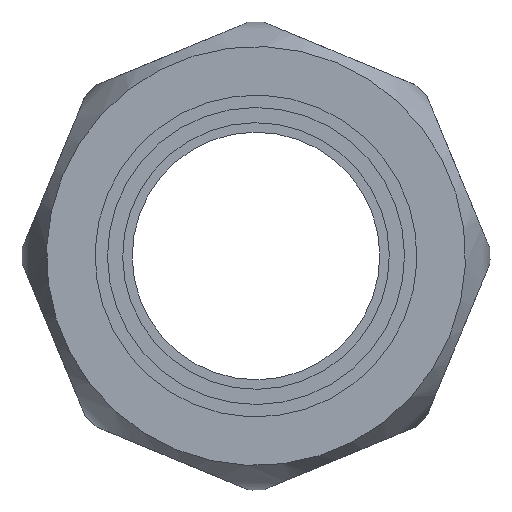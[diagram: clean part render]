
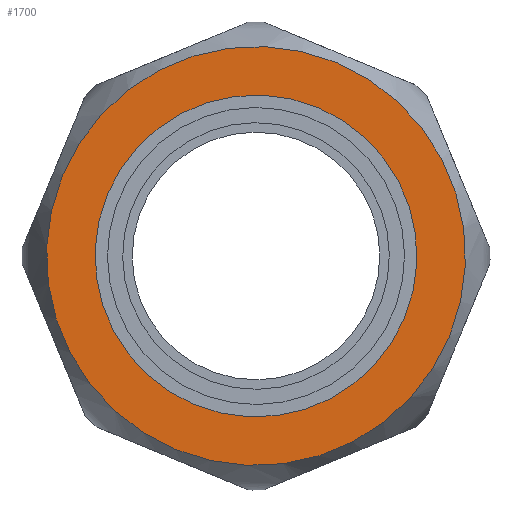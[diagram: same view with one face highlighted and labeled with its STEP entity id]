
A CAD part, left-side view. The second image highlights one B-rep face of the part: STEP entity #1700.
In plain terms, the highlighted planar face has unit normal (-1, 0, 0) as drawn and (1, 0, 0) by its records, which use the part's own axes.
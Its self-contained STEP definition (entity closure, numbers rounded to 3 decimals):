
#1666=CARTESIAN_POINT('',(18.0,22.0,0.0));
#1667=VERTEX_POINT('',#1666);
#1668=CARTESIAN_POINT('',(18.0,0.0,0.0));
#1669=DIRECTION('',(1.0,0.0,0.0));
#1670=DIRECTION('',(0.0,1.0,0.0));
#1671=AXIS2_PLACEMENT_3D('',#1668,#1669,#1670);
#1672=CIRCLE('',#1671,22.0);
#1673=EDGE_CURVE('',#1667,#1667,#1672,.T.);
#1681=CARTESIAN_POINT('',(18.0,19.45,0.0));
#1682=DIRECTION('',(1.0,0.0,0.0));
#1683=DIRECTION('',(0.0,0.0,-1.0));
#1684=AXIS2_PLACEMENT_3D('',#1681,#1682,#1683);
#1685=PLANE('',#1684);
#1686=ORIENTED_EDGE('',*,*,#1673,.T.);
#1687=EDGE_LOOP('',(#1686));
#1688=FACE_OUTER_BOUND('',#1687,.T.);
#1689=CARTESIAN_POINT('',(18.,16.9,0.0));
#1690=VERTEX_POINT('',#1689);
#1691=CARTESIAN_POINT('',(18.,0.0,0.0));
#1692=DIRECTION('',(1.0,0.0,0.0));
#1693=DIRECTION('',(0.0,1.0,0.0));
#1694=AXIS2_PLACEMENT_3D('',#1691,#1692,#1693);
#1695=CIRCLE('',#1694,16.9);
#1696=EDGE_CURVE('',#1690,#1690,#1695,.T.);
#1697=ORIENTED_EDGE('',*,*,#1696,.F.);
#1698=EDGE_LOOP('',(#1697));
#1699=FACE_BOUND('',#1698,.T.);
#1700=ADVANCED_FACE('',(#1688,#1699),#1685,.T.);
